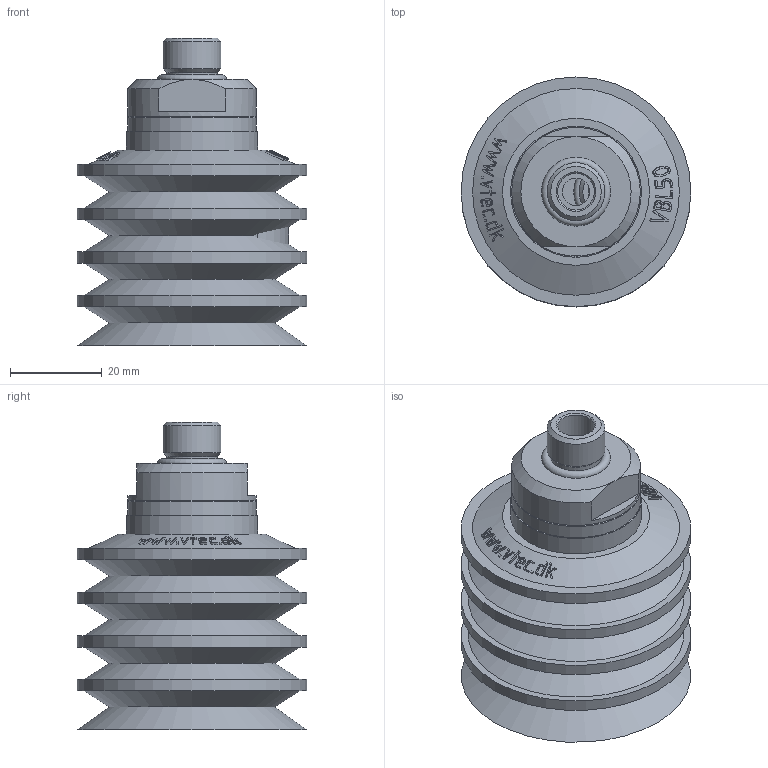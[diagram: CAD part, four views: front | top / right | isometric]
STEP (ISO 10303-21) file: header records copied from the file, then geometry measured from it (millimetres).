
FILE_DESCRIPTION( ( 'STEP AP203' ), '1' );
FILE_NAME( 'C:/撲啗紫賊-02/3D-蘋驍煎斜/Vacuum Pad/VBL series/VBL50-14M.stp', '2006-04-24T11:52:42', ( ' ' ), ( ' ' ), 'XStep 1.0', ' ', ' ' );
FILE_SCHEMA( ( 'CONFIG_CONTROL_DESIGN) ( )' ) );
Length unit declared in the file: metre
Products named in the file (3): Assem1; 1; 2
Bounding box: 50 x 50 x 67 mm (x, y, z)
Volume: 52021 mm3; surface area: 54381.2 mm2
Topology: 4 solids, 4 shells, 462 faces, 1068 edges, 696 vertices
Faces by surface type: bspline 264, cone 98, plane 58, cylinder 40, torus 2
Full cylindrical faces by diameter (mm): 6 x2, 8 x2, 9 x2, 10 x2, 11 x4, 11.8 x6, 12.3 x2, 12.6 x2, 14.5 x2, 15 x2, 28 x4, 28.516 x2, 50 x8
Entity records: 12290 total; most frequent: CARTESIAN_POINT 8060, ORIENTED_EDGE 962, EDGE_CURVE 481, DIRECTION 444, VERTEX_POINT 345, EDGE_LOOP 326, B_SPLINE_CURVE_WITH_KNOTS 318, FACE_OUTER_BOUND 254
